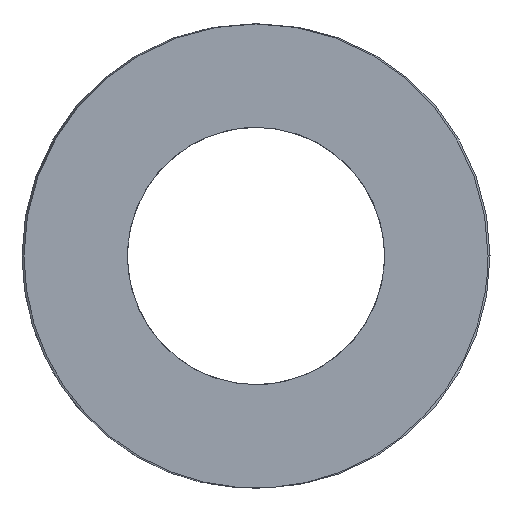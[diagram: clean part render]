
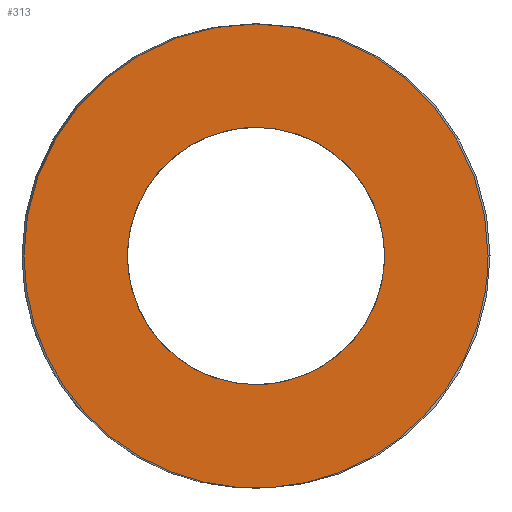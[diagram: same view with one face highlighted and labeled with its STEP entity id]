
A CAD part, left-side view. The second image highlights one B-rep face of the part: STEP entity #313.
In plain terms, the highlighted planar face has unit normal (-1, 0, 0).
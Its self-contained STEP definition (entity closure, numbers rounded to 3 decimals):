
#63=CARTESIAN_POINT('Vertex',(0.,9.2,0.)) ;
#89=CARTESIAN_POINT('Vertex',(0.,-9.2,0.)) ;
#93=CARTESIAN_POINT('Control Point',(0.,9.2,0.)) ;
#94=CARTESIAN_POINT('Control Point',(0.,9.2,-1.445)) ;
#95=CARTESIAN_POINT('Control Point',(0.,8.916,-2.89)) ;
#96=CARTESIAN_POINT('Control Point',(0.,8.348,-4.261)) ;
#97=CARTESIAN_POINT('Control Point',(0.,6.706,-6.706)) ;
#98=CARTESIAN_POINT('Control Point',(0.,4.261,-8.348)) ;
#99=CARTESIAN_POINT('Control Point',(0.,2.89,-8.916)) ;
#100=CARTESIAN_POINT('Control Point',(0.,0.,-9.484)) ;
#101=CARTESIAN_POINT('Control Point',(0.,-2.89,-8.916)) ;
#102=CARTESIAN_POINT('Control Point',(0.,-4.261,-8.348)) ;
#103=CARTESIAN_POINT('Control Point',(0.,-6.706,-6.706)) ;
#104=CARTESIAN_POINT('Control Point',(0.,-8.348,-4.261)) ;
#105=CARTESIAN_POINT('Control Point',(0.,-8.916,-2.89)) ;
#106=CARTESIAN_POINT('Control Point',(0.,-9.2,-1.445)) ;
#107=CARTESIAN_POINT('Control Point',(0.,-9.2,0.)) ;
#121=CARTESIAN_POINT('Axis2P3D Location',(0.,0.,0.)) ;
#250=CARTESIAN_POINT('Axis2P3D Location',(0.,4.6,0.)) ;
#260=CARTESIAN_POINT('Control Point',(0.,0.,-5.1)) ;
#261=CARTESIAN_POINT('Control Point',(0.,0.553,-5.1)) ;
#262=CARTESIAN_POINT('Control Point',(0.,1.106,-5.025)) ;
#263=CARTESIAN_POINT('Control Point',(0.,1.646,-4.875)) ;
#264=CARTESIAN_POINT('Control Point',(0.,2.671,-4.432)) ;
#265=CARTESIAN_POINT('Control Point',(0.,3.541,-3.733)) ;
#266=CARTESIAN_POINT('Control Point',(0.,3.926,-3.326)) ;
#267=CARTESIAN_POINT('Control Point',(0.,4.575,-2.418)) ;
#268=CARTESIAN_POINT('Control Point',(0.,4.96,-1.37)) ;
#269=CARTESIAN_POINT('Control Point',(0.,5.079,-0.822)) ;
#270=CARTESIAN_POINT('Control Point',(0.,5.167,0.291)) ;
#271=CARTESIAN_POINT('Control Point',(0.,4.955,1.387)) ;
#272=CARTESIAN_POINT('Control Point',(0.,4.775,1.917)) ;
#273=CARTESIAN_POINT('Control Point',(0.,4.275,2.916)) ;
#274=CARTESIAN_POINT('Control Point',(0.,3.528,3.745)) ;
#275=CARTESIAN_POINT('Control Point',(0.,3.1,4.106)) ;
#276=CARTESIAN_POINT('Control Point',(0.,2.255,4.642)) ;
#277=CARTESIAN_POINT('Control Point',(0.,1.309,4.959)) ;
#278=CARTESIAN_POINT('Control Point',(0.,0.877,5.053)) ;
#279=CARTESIAN_POINT('Control Point',(0.,0.439,5.1)) ;
#280=CARTESIAN_POINT('Control Point',(0.,0.,5.1)) ;
#281=CARTESIAN_POINT('Vertex',(0.,0.,-5.1)) ;
#283=CARTESIAN_POINT('Vertex',(0.,0.,5.1)) ;
#287=CARTESIAN_POINT('Control Point',(0.,0.,5.1)) ;
#288=CARTESIAN_POINT('Control Point',(0.,-0.553,5.1)) ;
#289=CARTESIAN_POINT('Control Point',(0.,-1.106,5.025)) ;
#290=CARTESIAN_POINT('Control Point',(0.,-1.646,4.875)) ;
#291=CARTESIAN_POINT('Control Point',(0.,-2.671,4.432)) ;
#292=CARTESIAN_POINT('Control Point',(0.,-3.541,3.733)) ;
#293=CARTESIAN_POINT('Control Point',(0.,-3.926,3.326)) ;
#294=CARTESIAN_POINT('Control Point',(0.,-4.575,2.418)) ;
#295=CARTESIAN_POINT('Control Point',(0.,-4.96,1.37)) ;
#296=CARTESIAN_POINT('Control Point',(0.,-5.079,0.822)) ;
#297=CARTESIAN_POINT('Control Point',(0.,-5.167,-0.291)) ;
#298=CARTESIAN_POINT('Control Point',(0.,-4.955,-1.387)) ;
#299=CARTESIAN_POINT('Control Point',(0.,-4.775,-1.917)) ;
#300=CARTESIAN_POINT('Control Point',(0.,-4.275,-2.916)) ;
#301=CARTESIAN_POINT('Control Point',(0.,-3.528,-3.745)) ;
#302=CARTESIAN_POINT('Control Point',(0.,-3.1,-4.106)) ;
#303=CARTESIAN_POINT('Control Point',(0.,-2.255,-4.642)) ;
#304=CARTESIAN_POINT('Control Point',(0.,-1.309,-4.959)) ;
#305=CARTESIAN_POINT('Control Point',(0.,-0.877,-5.053)) ;
#306=CARTESIAN_POINT('Control Point',(0.,-0.439,-5.1)) ;
#307=CARTESIAN_POINT('Control Point',(0.,0.,-5.1)) ;
#122=DIRECTION('Axis2P3D Direction',(1.,-0.,0.)) ;
#251=DIRECTION('Axis2P3D Direction',(-1.,0.,0.)) ;
#252=DIRECTION('Axis2P3D XDirection',(0.,1.,0.)) ;
#123=AXIS2_PLACEMENT_3D('Circle Axis2P3D',#121,#122,$) ;
#253=AXIS2_PLACEMENT_3D('Plane Axis2P3D',#250,#251,#252) ;
#256=ORIENTED_EDGE('',*,*,#108,.T.) ;
#257=ORIENTED_EDGE('',*,*,#125,.T.) ;
#310=ORIENTED_EDGE('',*,*,#285,.T.) ;
#311=ORIENTED_EDGE('',*,*,#308,.T.) ;
#312=FACE_BOUND('',#309,.T.) ;
#313=ADVANCED_FACE('392-B20-044',(#258,#312),#254,.T.) ;
#92=B_SPLINE_CURVE_WITH_KNOTS('',5,(#93,#94,#95,#96,#97,#98,#99,#100,#101,#102,#103,#104,#105,#106,#107),.UNSPECIFIED.,.F.,.U.,(6,3,3,3,6),(-14.451,-7.226,0.,7.226,14.451),.UNSPECIFIED.) ;
#259=B_SPLINE_CURVE_WITH_KNOTS('',5,(#260,#261,#262,#263,#264,#265,#266,#267,#268,#269,#270,#271,#272,#273,#274,#275,#276,#277,#278,#279,#280),.UNSPECIFIED.,.F.,.U.,(6,3,3,3,3,3,6),(0.,3.911,7.823,11.734,15.646,19.557,22.658),.UNSPECIFIED.) ;
#286=B_SPLINE_CURVE_WITH_KNOTS('',5,(#287,#288,#289,#290,#291,#292,#293,#294,#295,#296,#297,#298,#299,#300,#301,#302,#303,#304,#305,#306,#307),.UNSPECIFIED.,.F.,.U.,(6,3,3,3,3,3,6),(0.,3.911,7.823,11.734,15.646,19.557,22.658),.UNSPECIFIED.) ;
#124=CIRCLE('generated circle',#123,9.2) ;
#108=EDGE_CURVE('',#64,#90,#92,.T.) ;
#125=EDGE_CURVE('',#90,#64,#124,.F.) ;
#285=EDGE_CURVE('',#282,#284,#259,.T.) ;
#308=EDGE_CURVE('',#284,#282,#286,.T.) ;
#255=EDGE_LOOP('',(#256,#257)) ;
#309=EDGE_LOOP('',(#310,#311)) ;
#258=FACE_OUTER_BOUND('',#255,.T.) ;
#254=PLANE('Plane',#253) ;
#64=VERTEX_POINT('',#63) ;
#90=VERTEX_POINT('',#89) ;
#282=VERTEX_POINT('',#281) ;
#284=VERTEX_POINT('',#283) ;
